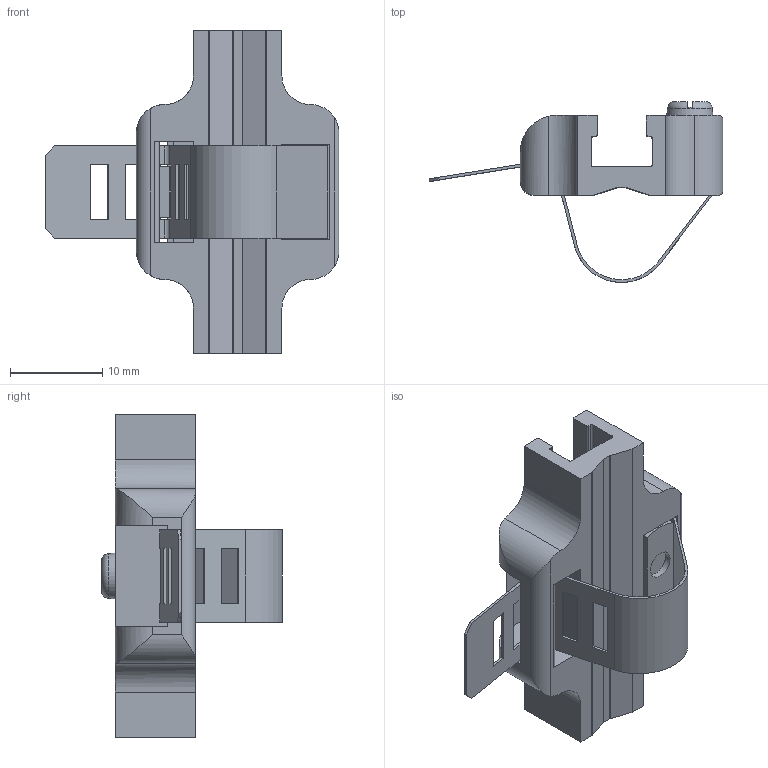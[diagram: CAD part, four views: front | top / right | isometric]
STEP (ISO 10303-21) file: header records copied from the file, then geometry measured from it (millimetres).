
FILE_DESCRIPTION( ( 'STEP AP214' ), ' ' );
FILE_NAME( 'p:/temp/worker_18/3356_840/app_40_02017120212555693545780192d056f_000000_00_00_000000/format_0/SICK BEF-KHZ-RT1-130-1-Bestell-Nr.2077684 (10).stp', '2017-12-02T11:55:57', ( '' ), ( '' ), ' ', 'PARTsolutions', ' ' );
FILE_SCHEMA( ( 'AUTOMOTIVE_DESIGN { 1 0 10303 214 1 1 1 1 }' ) );
Length unit declared in the file: millimetre
Products named in the file (1): _SICK BEF-KHZ-RT1-130-1-Bestell-Nr.2077684 (10)
Bounding box: 31.92 x 19.64 x 35 mm (x, y, z)
Volume: 2983.5 mm3; surface area: 3905.3 mm2
Topology: 1 solids, 1 shells, 134 faces, 381 edges, 252 vertices
Faces by surface type: plane 87, cylinder 45, cone 1, torus 1
Full cylindrical faces by diameter (mm): 3 x2, 3.2 x1
Entity records: 5512 total; most frequent: CARTESIAN_POINT 883, ORIENTED_EDGE 748, DIRECTION 720, EDGE_CURVE 374, LINE 270, VECTOR 270, VERTEX_POINT 250, AXIS2_PLACEMENT_3D 225
